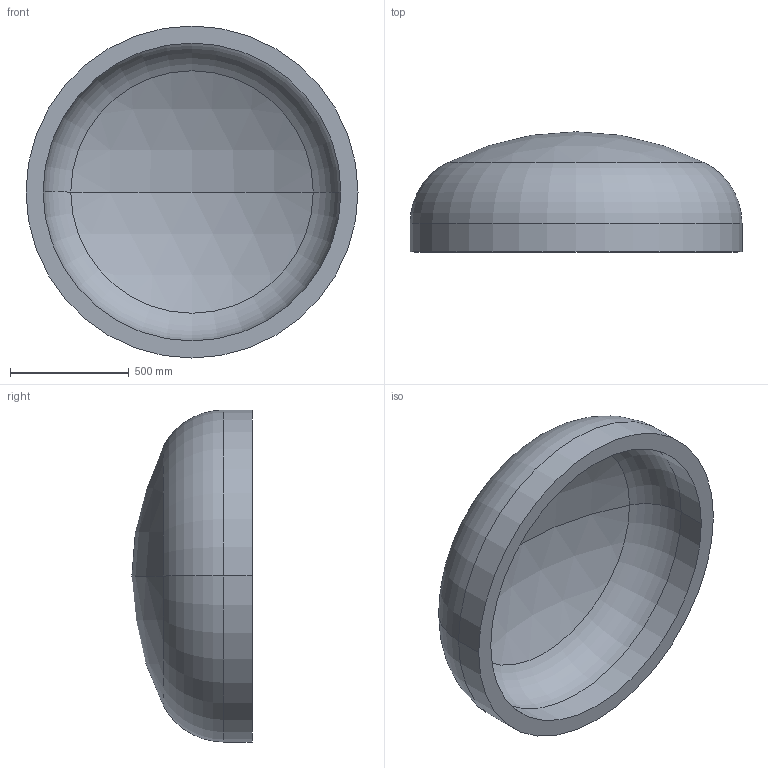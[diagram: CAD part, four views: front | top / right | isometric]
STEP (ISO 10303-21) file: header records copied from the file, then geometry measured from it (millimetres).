
FILE_DESCRIPTION (( 'STEP AP203' ), '1' );
FILE_NAME ('DIN 28013 Korbbogenform_-_Boden DIN 28013 - 1400 x 120 - I - s=72.step', '2016-07-01T10:24:28', ( '' ), ( '' ), 'SwSTEP 2.0', 'SolidWorks 2013', '' );
FILE_SCHEMA (( 'CONFIG_CONTROL_DESIGN' ));
Length unit declared in the file: millimetre
Products named in the file (1): DIN 28013 Korbbogenform_-_Boden DIN 28013 - 1400 x 120 - I - s=72
Bounding box: 1400 x 506.73 x 1400 mm (x, y, z)
Volume: 179663982 mm3; surface area: 5301908.8 mm2
Topology: 1 solids, 1 shells, 13 faces, 24 edges, 14 vertices
Faces by surface type: torus 4, cylinder 4, sphere 4, plane 1
Entity records: 407 total; most frequent: DIRECTION 72, CARTESIAN_POINT 52, ORIENTED_EDGE 48, AXIS2_PLACEMENT_3D 34, EDGE_CURVE 24, CIRCLE 20, VERTEX_POINT 14, EDGE_LOOP 14
